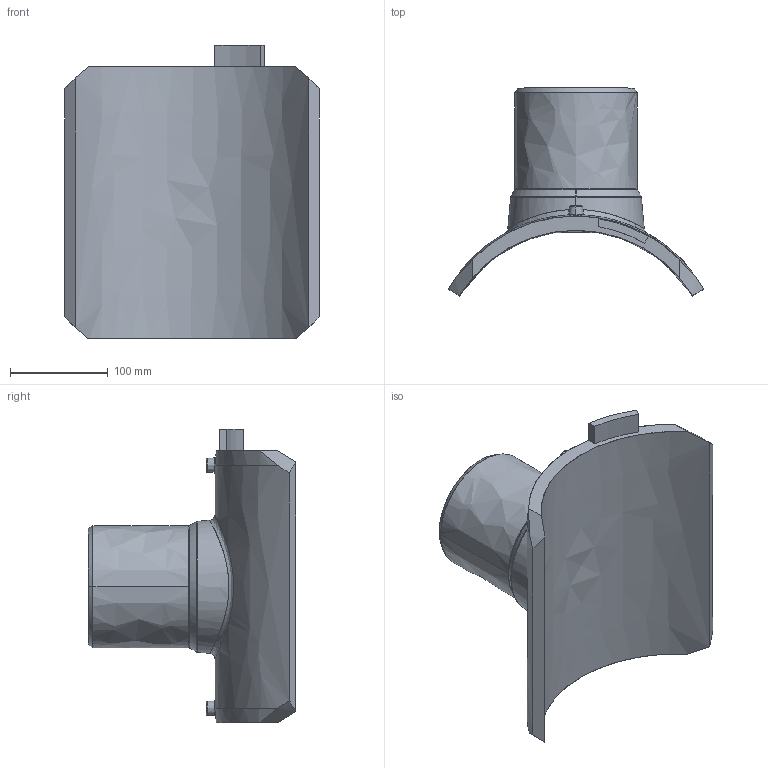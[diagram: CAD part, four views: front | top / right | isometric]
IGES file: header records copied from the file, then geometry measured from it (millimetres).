
Start section:  PTC IGES file: sa-uni_d280_125_01.igs
Global section: file name: sa-uni_d280_125_01.igs; native system: Pro/ENGINEER by Parametric Technology Corporation; preprocessor: 2011490; author: MikulicP; organization: Unknown; date: 20170202.130513; units: millimetre
Bounding box: 261 x 212.86 x 301 mm (x, y, z)
Surface area: 288242.3 mm2 (no closed solid volume)
Topology: 0 solids, 0 shells, 202 faces, 1000 edges, 1000 vertices
Faces by surface type: bspline 202
